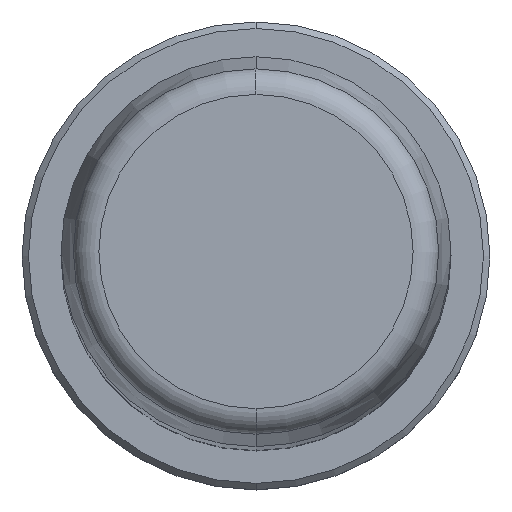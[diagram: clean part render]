
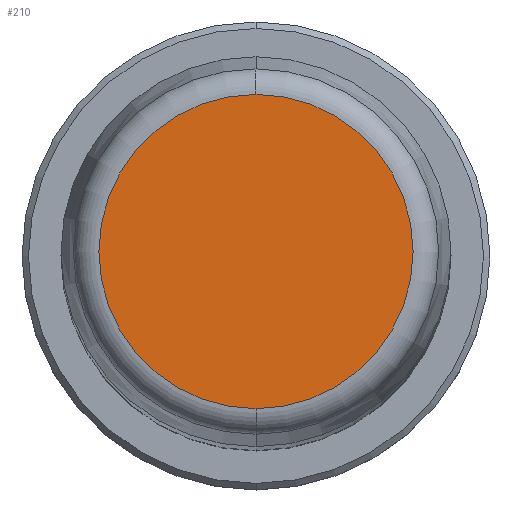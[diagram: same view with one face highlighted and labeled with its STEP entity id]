
A CAD part, top view. The second image highlights one B-rep face of the part: STEP entity #210.
In plain terms, the highlighted planar face has unit normal (0, 0, 1).
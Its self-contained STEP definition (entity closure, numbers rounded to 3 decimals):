
#1=CARTESIAN_POINT('',(0.,0.,200.));
#2=DIRECTION('',(0.,0.,-1.));
#3=DIRECTION('',(0.,-1.,0.));
#4=AXIS2_PLACEMENT_3D('',#1,#2,#3);
#6=CARTESIAN_POINT('',(0.,0.,200.));
#7=DIRECTION('',(0.,0.,-1.));
#8=DIRECTION('',(0.,1.,0.));
#9=AXIS2_PLACEMENT_3D('',#6,#7,#8);
#183=CARTESIAN_POINT('',(0.,-12.088,200.));
#184=CARTESIAN_POINT('',(0.,12.088,200.));
#185=VERTEX_POINT('',#183);
#186=VERTEX_POINT('',#184);
#199=CARTESIAN_POINT('',(0.,0.,200.));
#200=DIRECTION('',(0.,0.,1.));
#201=DIRECTION('',(0.,-1.,0.));
#202=AXIS2_PLACEMENT_3D('',#199,#200,#201);
#203=PLANE('',#202);
#205=ORIENTED_EDGE('',*,*,#204,.T.);
#207=ORIENTED_EDGE('',*,*,#206,.T.);
#208=EDGE_LOOP('',(#205,#207));
#209=FACE_OUTER_BOUND('',#208,.F.);
#210=ADVANCED_FACE('',(#209),#203,.T.);
#5=CIRCLE('',#4,12.088);
#10=CIRCLE('',#9,12.088);
#204=EDGE_CURVE('',#185,#186,#5,.T.);
#206=EDGE_CURVE('',#186,#185,#10,.T.);
